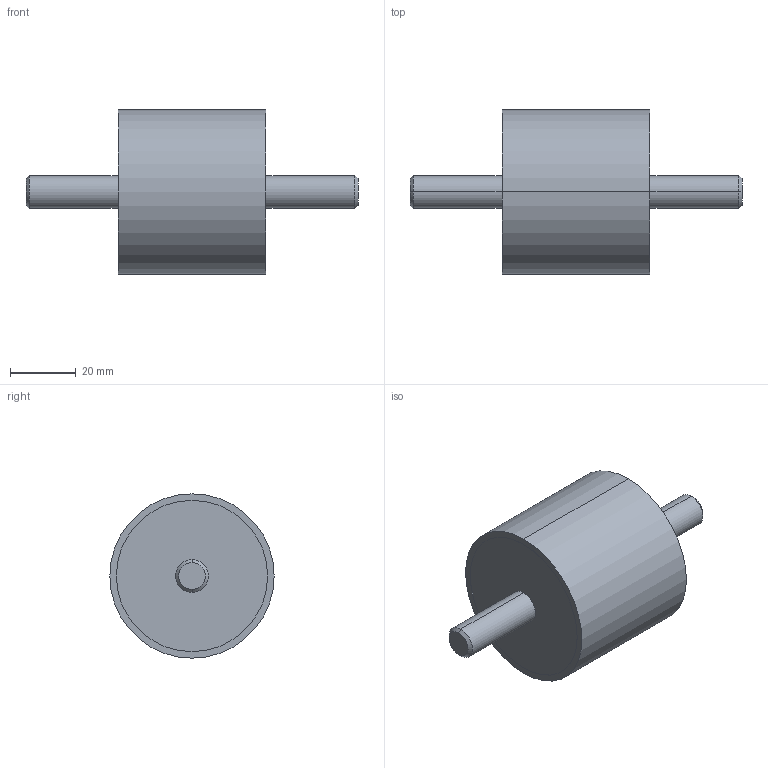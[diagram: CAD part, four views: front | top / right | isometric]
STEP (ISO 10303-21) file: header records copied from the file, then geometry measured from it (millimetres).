
FILE_DESCRIPTION (( 'STEP AP214' ), '1' );
FILE_NAME ('351-50-45-M10-SS-70.step', '2025-07-23T09:46:06', ( '' ), ( '' ), 'SwSTEP 2.0', 'SolidWorks 2022', '' );
FILE_SCHEMA (( 'AUTOMOTIVE_DESIGN' ));
Length unit declared in the file: millimetre
Products named in the file (1): 351-50-45-M10-SS-70
Bounding box: 101 x 50 x 50 mm (x, y, z)
Volume: 92697.3 mm3; surface area: 12721.1 mm2
Topology: 1 solids, 1 shells, 20 faces, 38 edges, 24 vertices
Faces by surface type: cylinder 10, plane 6, cone 4
Entity records: 636 total; most frequent: DIRECTION 104, CARTESIAN_POINT 83, ORIENTED_EDGE 76, AXIS2_PLACEMENT_3D 45, EDGE_CURVE 38, EDGE_LOOP 24, CIRCLE 24, VERTEX_POINT 24
